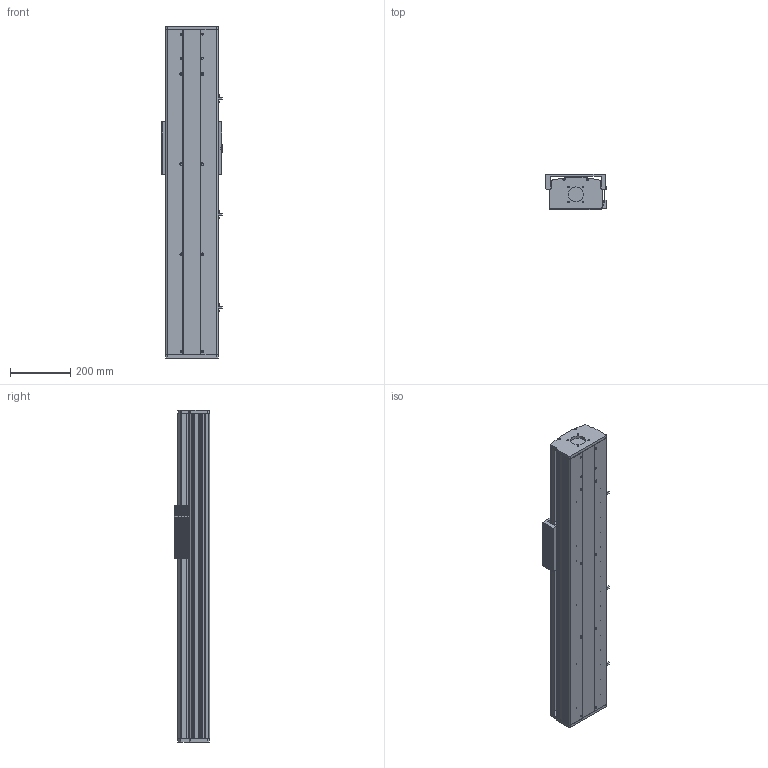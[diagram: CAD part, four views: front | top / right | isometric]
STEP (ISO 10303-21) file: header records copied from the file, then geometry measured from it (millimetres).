
FILE_DESCRIPTION (( 'STEP AP203' ), '1' );
FILE_NAME ('CF175B-C-750-FW.STEP', '2020-07-15T01:54:05', ( 'Micorosoft' ), ( 'Micorosoft' ), 'SwSTEP 2.0', 'SolidWorks 2016', '' );
FILE_SCHEMA (( 'CONFIG_CONTROL_DESIGN' ));
Length unit declared in the file: millimetre
Products named in the file (12): 175B裔啣-750; 75-86-95癹弇羲壽覜茼え; CF-EGH20CA賑輸; 175B珨极嘐隅釱; 嫖萇羲壽; CF175B-C-750-FW; 175B臏倰第-750; 175-2耜啣; 175-2盓傅釱; EGR20絳寢-750; CF175-2蹟譫釱; CF175-2賑雄啣
Assembly tree (17 placements, depth 2):
  CF175B-C-750-FW
    175-2耜啣
    175-2盓傅釱
    CF175-2蹟譫釱
    175B裔啣-750
    175B臏倰第-750
    EGR20絳寢-750  x2
    CF175-2賑雄啣
    75-86-95癹弇羲壽覜茼え
    CF-EGH20CA賑輸  x4
    175B珨极嘐隅釱
    嫖萇羲壽  x3
Bounding box: 201.1 x 116.8 x 1105 mm (x, y, z)
Volume: 8705892.9 mm3; surface area: 2264798.5 mm2
Topology: 23 solids, 23 shells, 1389 faces, 3630 edges, 2412 vertices
Faces by surface type: plane 719, cylinder 664, cone 4, bspline 2
Entity records: 33570 total; most frequent: DIRECTION 5781, CARTESIAN_POINT 5673, ORIENTED_EDGE 5320, EDGE_CURVE 2660, AXIS2_PLACEMENT_3D 2116, VERTEX_POINT 1768, LINE 1549, VECTOR 1549
